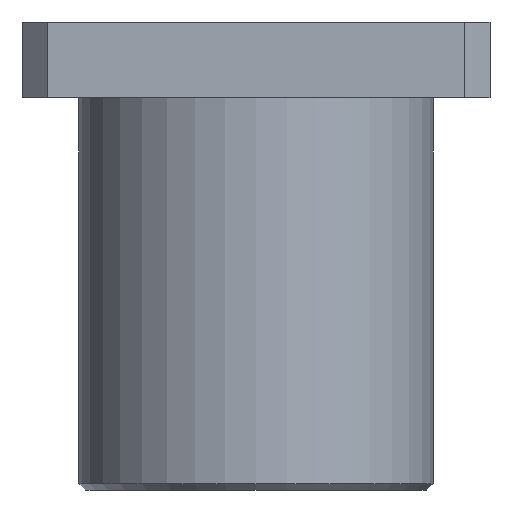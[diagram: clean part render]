
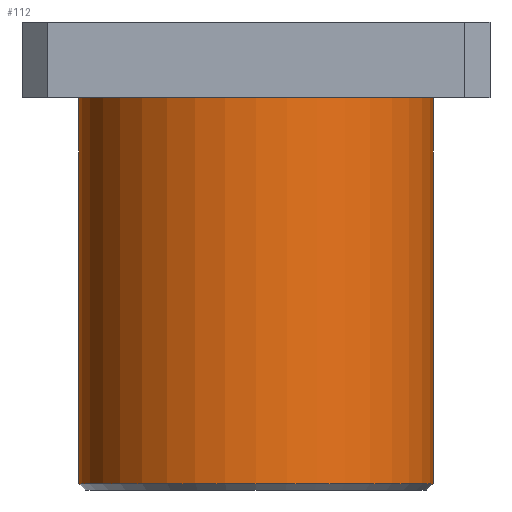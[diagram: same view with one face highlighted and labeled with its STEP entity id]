
A CAD part, front view. The second image highlights one B-rep face of the part: STEP entity #112.
In plain terms, the highlighted cylindrical face has radius 14 mm (diameter 28 mm), a full revolution.
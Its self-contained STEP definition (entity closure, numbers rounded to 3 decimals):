
#112=ADVANCED_FACE('',(#382,#384),#386,.T.);
#382=FACE_OUTER_BOUND('',#383,.T.);
#383=EDGE_LOOP('',(#610));
#384=FACE_OUTER_BOUND('',#385,.T.);
#385=EDGE_LOOP('',(#611));
#386=CYLINDRICAL_SURFACE('',#387,14.);
#387=AXIS2_PLACEMENT_3D('',#388,#389,#390);
#388=CARTESIAN_POINT('',(0.,0.,0.));
#389=DIRECTION('',(0.,0.,-1.));
#390=DIRECTION('',(-1.,0.,0.));
#610=ORIENTED_EDGE('',*,*,#703,.T.);
#611=ORIENTED_EDGE('',*,*,#701,.F.);
#701=EDGE_CURVE('',#755,#755,#756,.T.);
#703=EDGE_CURVE('',#759,#759,#760,.T.);
#755=VERTEX_POINT('',#860);
#756=CIRCLE('',#861,14.);
#759=VERTEX_POINT('',#870);
#760=CIRCLE('',#871,14.);
#860=CARTESIAN_POINT('',(-14.,0.,-30.5));
#861=AXIS2_PLACEMENT_3D('',#862,#863,#864);
#862=CARTESIAN_POINT('',(0.,0.,-30.5));
#863=DIRECTION('',(0.,0.,-1.));
#864=DIRECTION('',(-1.,0.,0.));
#870=CARTESIAN_POINT('',(-14.,0.,0.));
#871=AXIS2_PLACEMENT_3D('',#872,#873,#874);
#872=CARTESIAN_POINT('',(0.,0.,0.));
#873=DIRECTION('',(-0.,-0.,-1.));
#874=DIRECTION('',(-1.,0.,0.));
